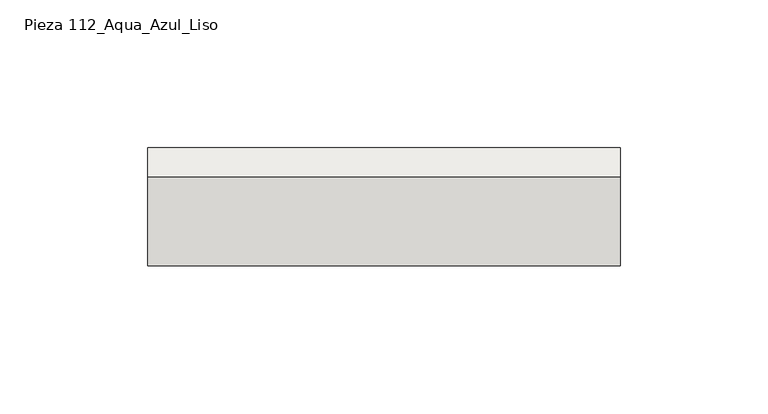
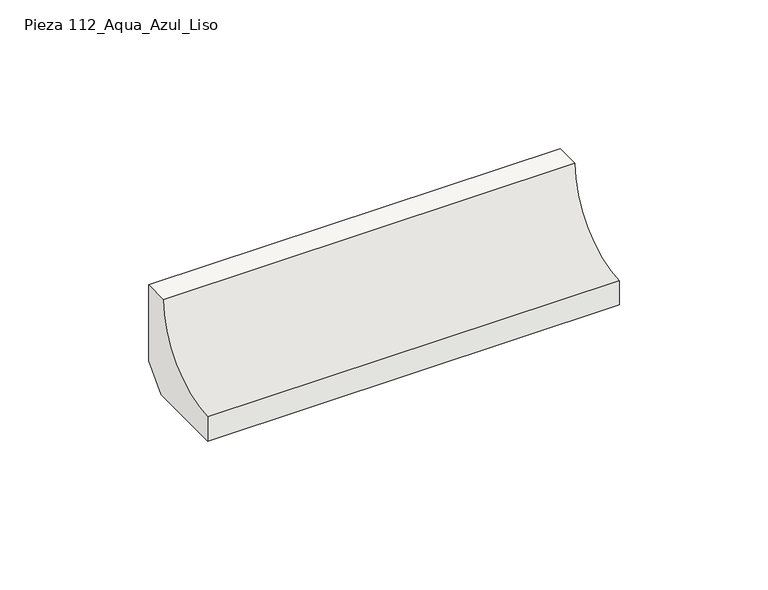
"""IFC4 building model written with IfcOpenShell, lengths in millimetres: slab geometry, ROSA GRES_112 : Pieza 112_Aqua_Azul_Liso."""

from ifc_helpers import new_model, si_unit, point, frame, frame_2d, origin, place, context, project, spatial, polyline, circle_curve, trimmed, segment, composite_curve, outline, extrude, source, transform, mapped, element, save


def pieza_112_aqua_azul_liso_4210b536(model_context):
    return source(origin(), model_context, "Body", "SweptSolid", [
        extrude(outline(composite_curve([segment(polyline([(0.0, 8.7114978), (-8.7114978, 0.0), (-40.0, 0.0), (-40.0, 9.9734114)]), True, "CONTINUOUS"), segment(trimmed(circle_curve(frame_2d((-39.9955547, 39.9955547)), 30.0221435), [point((-40.0, 9.9734114))], [point((-9.9734114, 40.0))], True, "CARTESIAN"), True, "CONTINUOUS"), segment(polyline([(-9.9734114, 40.0), (0.0, 40.0), (0.0, 8.7114978)]), True, "CONTINUOUS")], self_intersect=False)), frame((0.0, 0.0, 0.0), z_axis=(1.0, 0.0, 0.0), x_axis=(0.0, 1.0, 0.0)), (0.0, 0.0, 1.0), 160.0),
    ])


if __name__ == "__main__":
    model = new_model("IFC4")
    model_context = context("Model", 3, world=origin())
    ifc_project = project(units=[si_unit("LENGTHUNIT", "METRE", prefix="MILLI")], contexts=[model_context])
    site = spatial("IfcSite", under=ifc_project)
    building = spatial("IfcBuilding", under=site)
    placement = place(None, origin())
    pieza_112_aqua_azul_liso_shape = pieza_112_aqua_azul_liso_4210b536(model_context)
    element("IfcSlab", 1, ObjectType="ROSA GRES_112 : Pieza 112_Aqua_Azul_Liso", at=placement, inside=building, context=model_context, shape_type="MappedRepresentation", body=[
        mapped(pieza_112_aqua_azul_liso_shape, transform((0.0, 0.0, 0.0), x_axis=(1.0, 0.0, 0.0), y_axis=(0.0, 1.0, 0.0), z_axis=(0.0, 0.0, 1.0))),
    ])
    save(model, "model.ifc")
